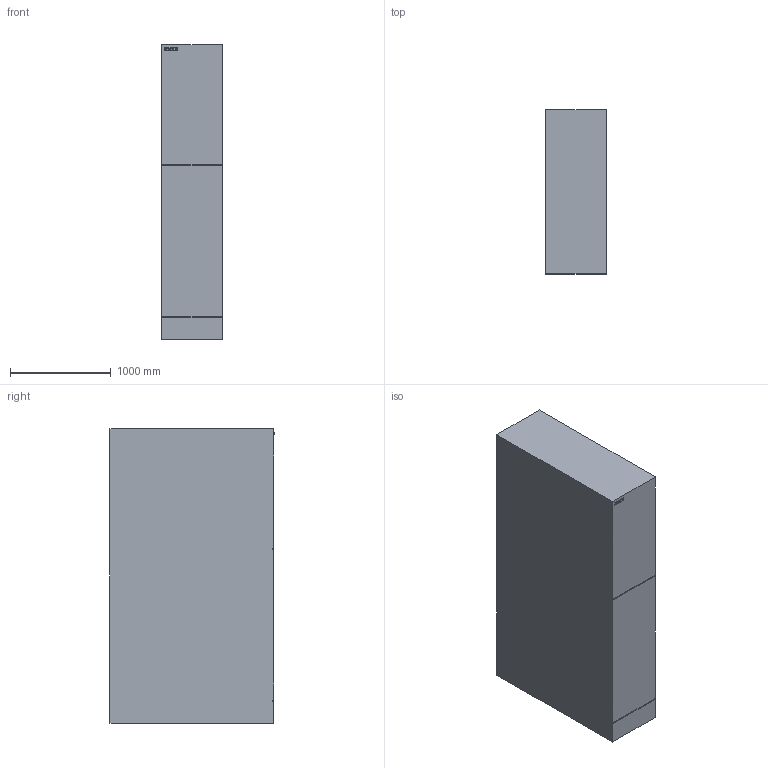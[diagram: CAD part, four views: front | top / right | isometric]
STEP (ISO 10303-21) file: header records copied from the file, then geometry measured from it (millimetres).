
FILE_DESCRIPTION(/* description */ (''),/* implementation_level */ '2;1');
FILE_NAME(/* name */ 'C:\ProgramData\Autodesk\RVT 2016\Libraries\Germany\__Siemens Entwicklung 8DA 8DB\DWG\Siemens_MV_switchgear_gas-insulated_8DA10_40_5kV - Single panel 600mm with cable cutout LV1200 with raised.stp',/* time_stamp */ '2018-03-14T11:55:35+01:00',/* author */ ('prange'),/* organization */ (''),/* preprocessor_version */ 'ST-DEVELOPER v16.1',/* originating_system */ 'AutoCAD Mechanical',/* authorisation */ '');
FILE_SCHEMA (('AUTOMOTIVE_DESIGN { 1 0 10303 214 3 1 1 }'));
Length unit declared in the file: millimetre
Products named in the file (2): 8DA - Basic - Test-568496-_3D_; Product
Assembly tree (1 placements, depth 2):
  Product
    8DA - Basic - Test-568496-_3D_
Bounding box: 600 x 1626.5 x 2920 mm (x, y, z)
Volume: 2841044250 mm3; surface area: 15009412.8 mm2
Topology: 2 solids, 9 shells, 32 faces, 203 edges, 203 vertices
Faces by surface type: plane 32
Entity records: 1990 total; most frequent: CARTESIAN_POINT 441, DIRECTION 273, ORIENTED_EDGE 243, LINE 203, VECTOR 203, EDGE_CURVE 183, VERTEX_POINT 163, AXIS2_PLACEMENT_3D 35
